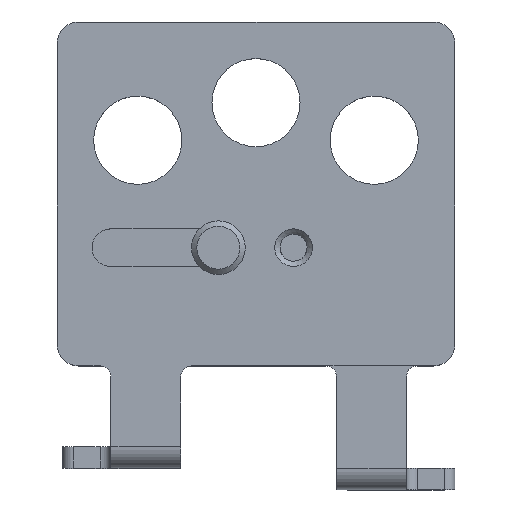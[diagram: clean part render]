
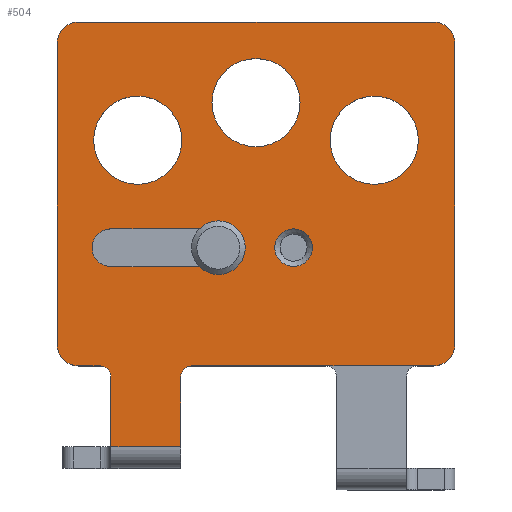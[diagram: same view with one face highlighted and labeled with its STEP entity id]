
A CAD part, top view. The second image highlights one B-rep face of the part: STEP entity #504.
In plain terms, the highlighted planar face has unit normal (0, 0, 1).
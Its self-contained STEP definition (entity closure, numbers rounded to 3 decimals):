
#25=LINE('',#2684,#169);
#29=LINE('',#2696,#173);
#33=LINE('',#2705,#177);
#42=LINE('',#2727,#186);
#54=LINE('',#2771,#198);
#59=LINE('',#2784,#203);
#63=LINE('',#2793,#207);
#65=LINE('',#2817,#209);
#69=LINE('',#2826,#213);
#72=LINE('',#2844,#216);
#169=VECTOR('',#2142,1.);
#173=VECTOR('',#2154,1.);
#177=VECTOR('',#2160,1.);
#186=VECTOR('',#2173,1.);
#198=VECTOR('',#2209,1.);
#203=VECTOR('',#2218,1.);
#207=VECTOR('',#2224,1.);
#209=VECTOR('',#2252,1.);
#213=VECTOR('',#2258,1.);
#216=VECTOR('',#2289,1.);
#441=FACE_BOUND('',#751,.T.);
#442=FACE_BOUND('',#752,.T.);
#443=FACE_BOUND('',#753,.T.);
#444=FACE_BOUND('',#754,.T.);
#445=FACE_BOUND('',#755,.T.);
#446=FACE_BOUND('',#756,.T.);
#504=ADVANCED_FACE('',(#441,#442,#443,#444,#445,#446),#592,.F.);
#592=PLANE('',#1950);
#751=EDGE_LOOP('',(#969));
#752=EDGE_LOOP('',(#970,#971,#972,#973,#974,#975,#976,#977,#978,#979,#980,
#981,#982,#983));
#753=EDGE_LOOP('',(#984));
#754=EDGE_LOOP('',(#985));
#755=EDGE_LOOP('',(#986));
#756=EDGE_LOOP('',(#987,#988,#989,#990));
#969=ORIENTED_EDGE('',*,*,#1606,.T.);
#970=ORIENTED_EDGE('',*,*,#1541,.F.);
#971=ORIENTED_EDGE('',*,*,#1607,.T.);
#972=ORIENTED_EDGE('',*,*,#1537,.F.);
#973=ORIENTED_EDGE('',*,*,#1608,.T.);
#974=ORIENTED_EDGE('',*,*,#1593,.F.);
#975=ORIENTED_EDGE('',*,*,#1609,.T.);
#976=ORIENTED_EDGE('',*,*,#1583,.F.);
#977=ORIENTED_EDGE('',*,*,#1610,.T.);
#978=ORIENTED_EDGE('',*,*,#1579,.F.);
#979=ORIENTED_EDGE('',*,*,#1611,.T.);
#980=ORIENTED_EDGE('',*,*,#1573,.F.);
#981=ORIENTED_EDGE('',*,*,#1612,.T.);
#982=ORIENTED_EDGE('',*,*,#1551,.F.);
#983=ORIENTED_EDGE('',*,*,#1613,.T.);
#984=ORIENTED_EDGE('',*,*,#1592,.T.);
#985=ORIENTED_EDGE('',*,*,#1590,.T.);
#986=ORIENTED_EDGE('',*,*,#1586,.T.);
#987=ORIENTED_EDGE('',*,*,#1527,.F.);
#988=ORIENTED_EDGE('',*,*,#1597,.F.);
#989=ORIENTED_EDGE('',*,*,#1534,.F.);
#990=ORIENTED_EDGE('',*,*,#1531,.F.);
#1351=VERTEX_POINT('',#2676);
#1352=VERTEX_POINT('',#2677);
#1355=VERTEX_POINT('',#2685);
#1357=VERTEX_POINT('',#2691);
#1359=VERTEX_POINT('',#2697);
#1360=VERTEX_POINT('',#2698);
#1363=VERTEX_POINT('',#2706);
#1364=VERTEX_POINT('',#2707);
#1373=VERTEX_POINT('',#2726);
#1374=VERTEX_POINT('',#2728);
#1393=VERTEX_POINT('',#2770);
#1394=VERTEX_POINT('',#2772);
#1399=VERTEX_POINT('',#2783);
#1400=VERTEX_POINT('',#2785);
#1403=VERTEX_POINT('',#2792);
#1404=VERTEX_POINT('',#2794);
#1406=VERTEX_POINT('',#2800);
#1410=VERTEX_POINT('',#2810);
#1412=VERTEX_POINT('',#2815);
#1413=VERTEX_POINT('',#2818);
#1414=VERTEX_POINT('',#2819);
#1417=VERTEX_POINT('',#2838);
#1527=EDGE_CURVE('',#1351,#1352,#1775,.T.);
#1531=EDGE_CURVE('',#1352,#1355,#25,.T.);
#1534=EDGE_CURVE('',#1355,#1357,#1777,.T.);
#1537=EDGE_CURVE('',#1359,#1360,#29,.T.);
#1541=EDGE_CURVE('',#1363,#1364,#33,.T.);
#1551=EDGE_CURVE('',#1373,#1374,#42,.T.);
#1573=EDGE_CURVE('',#1393,#1394,#54,.T.);
#1579=EDGE_CURVE('',#1399,#1400,#59,.T.);
#1583=EDGE_CURVE('',#1403,#1404,#63,.T.);
#1586=EDGE_CURVE('',#1406,#1406,#1792,.T.);
#1590=EDGE_CURVE('',#1410,#1410,#1796,.T.);
#1592=EDGE_CURVE('',#1412,#1412,#1798,.T.);
#1593=EDGE_CURVE('',#1413,#1414,#65,.T.);
#1597=EDGE_CURVE('',#1357,#1351,#69,.T.);
#1606=EDGE_CURVE('',#1417,#1417,#1805,.T.);
#1607=EDGE_CURVE('',#1363,#1360,#1806,.T.);
#1608=EDGE_CURVE('',#1359,#1414,#1807,.T.);
#1609=EDGE_CURVE('',#1413,#1404,#1808,.T.);
#1610=EDGE_CURVE('',#1403,#1400,#1809,.T.);
#1611=EDGE_CURVE('',#1399,#1394,#1810,.T.);
#1612=EDGE_CURVE('',#1393,#1374,#72,.T.);
#1613=EDGE_CURVE('',#1373,#1364,#1811,.T.);
#1775=CIRCLE('',#1896,1.75);
#1777=CIRCLE('',#1900,1.75);
#1792=CIRCLE('',#1923,4.1);
#1796=CIRCLE('',#1929,4.1);
#1798=CIRCLE('',#1932,4.1);
#1805=CIRCLE('',#1943,1.75);
#1806=CIRCLE('',#1944,2.);
#1807=CIRCLE('',#1945,2.);
#1808=CIRCLE('',#1946,2.);
#1809=CIRCLE('',#1947,2.);
#1810=CIRCLE('',#1948,1.);
#1811=CIRCLE('',#1949,1.);
#1896=AXIS2_PLACEMENT_3D('',#2675,#2134,#2135);
#1900=AXIS2_PLACEMENT_3D('',#2690,#2147,#2148);
#1923=AXIS2_PLACEMENT_3D('',#2799,#2230,#2231);
#1929=AXIS2_PLACEMENT_3D('',#2809,#2242,#2243);
#1932=AXIS2_PLACEMENT_3D('',#2814,#2248,#2249);
#1943=AXIS2_PLACEMENT_3D('',#2837,#2277,#2278);
#1944=AXIS2_PLACEMENT_3D('',#2839,#2279,#2280);
#1945=AXIS2_PLACEMENT_3D('',#2840,#2281,#2282);
#1946=AXIS2_PLACEMENT_3D('',#2841,#2283,#2284);
#1947=AXIS2_PLACEMENT_3D('',#2842,#2285,#2286);
#1948=AXIS2_PLACEMENT_3D('',#2843,#2287,#2288);
#1949=AXIS2_PLACEMENT_3D('',#2845,#2290,#2291);
#1950=AXIS2_PLACEMENT_3D('',#2846,#2292,#2293);
#2134=DIRECTION('',(0.,0.,1.));
#2135=DIRECTION('',(-1.,0.,0.));
#2142=DIRECTION('',(-1.,0.,0.));
#2147=DIRECTION('',(0.,0.,1.));
#2148=DIRECTION('',(-1.,0.,0.));
#2154=DIRECTION('',(0.,-1.,0.));
#2160=DIRECTION('',(-1.,0.,0.));
#2173=DIRECTION('',(0.,-1.,0.));
#2209=DIRECTION('',(0.,1.,0.));
#2218=DIRECTION('',(-1.,0.,0.));
#2224=DIRECTION('',(0.,1.,0.));
#2230=DIRECTION('',(0.,0.,-1.));
#2231=DIRECTION('',(-1.,0.,0.));
#2242=DIRECTION('',(0.,0.,-1.));
#2243=DIRECTION('',(-1.,0.,0.));
#2248=DIRECTION('',(0.,0.,-1.));
#2249=DIRECTION('',(-1.,0.,0.));
#2252=DIRECTION('',(1.,0.,0.));
#2258=DIRECTION('',(1.,0.,0.));
#2277=DIRECTION('',(0.,0.,-1.));
#2278=DIRECTION('',(-1.,0.,0.));
#2279=DIRECTION('',(0.,0.,1.));
#2280=DIRECTION('',(-1.,0.,0.));
#2281=DIRECTION('',(0.,0.,1.));
#2282=DIRECTION('',(-1.,0.,0.));
#2283=DIRECTION('',(0.,0.,1.));
#2284=DIRECTION('',(-1.,0.,0.));
#2285=DIRECTION('',(0.,0.,1.));
#2286=DIRECTION('',(-1.,0.,0.));
#2287=DIRECTION('',(0.,0.,-1.));
#2288=DIRECTION('',(-1.,0.,0.));
#2289=DIRECTION('',(1.,0.,0.));
#2290=DIRECTION('',(0.,0.,-1.));
#2291=DIRECTION('',(-1.,0.,0.));
#2292=DIRECTION('',(0.,0.,-1.));
#2293=DIRECTION('',(-1.,0.,0.));
#2675=CARTESIAN_POINT('',(15.,-21.,2.));
#2676=CARTESIAN_POINT('',(15.,-22.75,2.));
#2677=CARTESIAN_POINT('',(15.,-19.25,2.));
#2684=CARTESIAN_POINT('',(15.,-19.25,2.));
#2685=CARTESIAN_POINT('',(5.,-19.25,2.));
#2690=CARTESIAN_POINT('',(5.,-21.,2.));
#2691=CARTESIAN_POINT('',(5.,-22.75,2.));
#2696=CARTESIAN_POINT('',(37.,0.,2.));
#2697=CARTESIAN_POINT('',(37.,-2.,2.));
#2698=CARTESIAN_POINT('',(37.,-30.,2.));
#2705=CARTESIAN_POINT('',(37.,-32.,2.));
#2706=CARTESIAN_POINT('',(35.,-32.,2.));
#2707=CARTESIAN_POINT('',(12.5,-32.,2.));
#2726=CARTESIAN_POINT('',(11.5,-33.,2.));
#2727=CARTESIAN_POINT('',(11.5,-32.,2.));
#2728=CARTESIAN_POINT('',(11.5,-39.5,2.));
#2770=CARTESIAN_POINT('',(5.,-39.5,2.));
#2771=CARTESIAN_POINT('',(5.,-41.5,2.));
#2772=CARTESIAN_POINT('',(5.,-33.,2.));
#2783=CARTESIAN_POINT('',(4.,-32.,2.));
#2784=CARTESIAN_POINT('',(5.,-32.,2.));
#2785=CARTESIAN_POINT('',(2.,-32.,2.));
#2792=CARTESIAN_POINT('',(0.,-30.,2.));
#2793=CARTESIAN_POINT('',(0.,-32.,2.));
#2794=CARTESIAN_POINT('',(0.,-2.,2.));
#2799=CARTESIAN_POINT('',(29.5,-11.,2.));
#2800=CARTESIAN_POINT('',(25.4,-11.,2.));
#2809=CARTESIAN_POINT('',(18.5,-7.5,2.));
#2810=CARTESIAN_POINT('',(14.4,-7.5,2.));
#2814=CARTESIAN_POINT('',(7.5,-11.,2.));
#2815=CARTESIAN_POINT('',(3.4,-11.,2.));
#2817=CARTESIAN_POINT('',(0.,0.,2.));
#2818=CARTESIAN_POINT('',(2.,0.,2.));
#2819=CARTESIAN_POINT('',(35.,0.,2.));
#2826=CARTESIAN_POINT('',(5.,-22.75,2.));
#2837=CARTESIAN_POINT('',(22.,-21.,2.));
#2838=CARTESIAN_POINT('',(20.25,-21.,2.));
#2839=CARTESIAN_POINT('',(35.,-30.,2.));
#2840=CARTESIAN_POINT('',(35.,-2.,2.));
#2841=CARTESIAN_POINT('',(2.,-2.,2.));
#2842=CARTESIAN_POINT('',(2.,-30.,2.));
#2843=CARTESIAN_POINT('',(4.,-33.,2.));
#2844=CARTESIAN_POINT('',(7.5,-39.5,2.));
#2845=CARTESIAN_POINT('',(12.5,-33.,2.));
#2846=CARTESIAN_POINT('',(7.5,-11.,2.));
